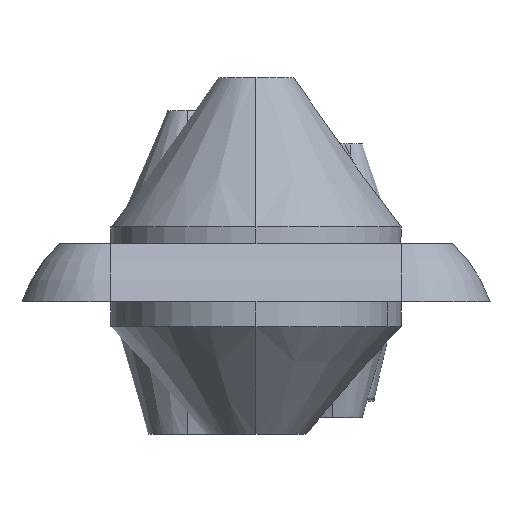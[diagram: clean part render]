
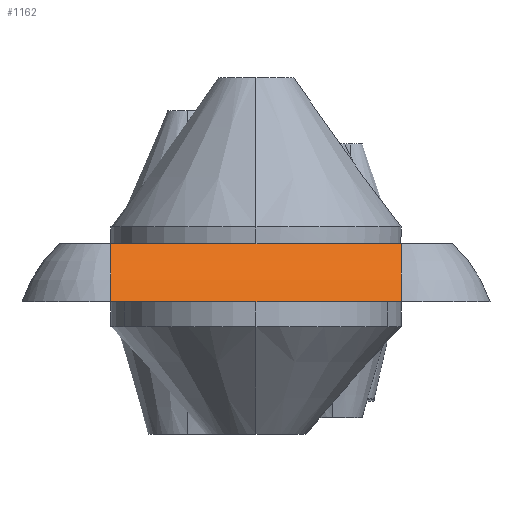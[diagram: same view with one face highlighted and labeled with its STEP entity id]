
A CAD part, left-side view. The second image highlights one B-rep face of the part: STEP entity #1162.
In plain terms, the highlighted cylindrical face has radius 16.279 mm (diameter 32.558 mm), a partial arc.
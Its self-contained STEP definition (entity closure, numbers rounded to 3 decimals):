
#245 = EDGE_LOOP ( 'NONE', ( #3084, #3083, #3082, #3081 ) ) ;
#884 = DIRECTION ( 'NONE',  ( 0., -1., 0. ) ) ;
#947 = DIRECTION ( 'NONE',  ( 0., 0., 1. ) ) ;
#952 = CARTESIAN_POINT ( 'NONE',  ( -57.73, 17.5, -12.054 ) ) ;
#962 = DIRECTION ( 'NONE',  ( 0., -1., 0. ) ) ;
#1162 = ADVANCED_FACE ( 'NONE', ( #4260 ), #4258, .T. ) ;
#1210 = CARTESIAN_POINT ( 'NONE',  ( -68.672, 17.5, 0. ) ) ;
#1212 = DIRECTION ( 'NONE',  ( 0., 0., 1. ) ) ;
#1213 = DIRECTION ( 'NONE',  ( 0., -1., 0. ) ) ;
#1214 = CARTESIAN_POINT ( 'NONE',  ( -57.73, -17.5, -12.054 ) ) ;
#1313 = CARTESIAN_POINT ( 'NONE',  ( -73.205, 17.5, -7. ) ) ;
#1314 = DIRECTION ( 'NONE',  ( 0., -1., 0. ) ) ;
#1760 = AXIS2_PLACEMENT_3D ( 'NONE', #952, #884, #947 ) ;
#1762 = AXIS2_PLACEMENT_3D ( 'NONE', #1214, #1213, #1212 ) ;
#2780 = VERTEX_POINT ( 'NONE', #6235 ) ;
#2787 = VERTEX_POINT ( 'NONE', #6212 ) ;
#2793 = VERTEX_POINT ( 'NONE', #6203 ) ;
#2800 = VERTEX_POINT ( 'NONE', #6198 ) ;
#3081 = ORIENTED_EDGE ( 'NONE', *, *, #6490, .F. ) ;
#3082 = ORIENTED_EDGE ( 'NONE', *, *, #6487, .F. ) ;
#3083 = ORIENTED_EDGE ( 'NONE', *, *, #6457, .T. ) ;
#3084 = ORIENTED_EDGE ( 'NONE', *, *, #6489, .T. ) ;
#4258 = CYLINDRICAL_SURFACE ( 'NONE', #5533, 16.279 ) ;
#4260 = FACE_OUTER_BOUND ( 'NONE', #245, .T. ) ;
#4780 = LINE ( 'NONE', #1313, #4784 ) ;
#4784 = VECTOR ( 'NONE', #1314, 1000. ) ;
#4814 = CIRCLE ( 'NONE', #1762, 16.279 ) ;
#4817 = CIRCLE ( 'NONE', #1760, 16.279 ) ;
#4818 = LINE ( 'NONE', #1210, #4820 ) ;
#4820 = VECTOR ( 'NONE', #962, 1000. ) ;
#4913 = CARTESIAN_POINT ( 'NONE',  ( -57.73, 17.5, -12.054 ) ) ;
#4915 = DIRECTION ( 'NONE',  ( 0., -1., 0. ) ) ;
#4920 = DIRECTION ( 'NONE',  ( 0., 0., -1. ) ) ;
#5533 = AXIS2_PLACEMENT_3D ( 'NONE', #4913, #4915, #4920 ) ;
#6198 = CARTESIAN_POINT ( 'NONE',  ( -73.205, 17.5, -7. ) ) ;
#6203 = CARTESIAN_POINT ( 'NONE',  ( -73.205, -17.5, -7. ) ) ;
#6212 = CARTESIAN_POINT ( 'NONE',  ( -68.672, 17.5, 0. ) ) ;
#6235 = CARTESIAN_POINT ( 'NONE',  ( -68.672, -17.5, 0. ) ) ;
#6457 = EDGE_CURVE ( 'NONE', #2800, #2793, #4780, .T. ) ;
#6487 = EDGE_CURVE ( 'NONE', #2780, #2793, #4814, .T. ) ;
#6489 = EDGE_CURVE ( 'NONE', #2787, #2800, #4817, .T. ) ;
#6490 = EDGE_CURVE ( 'NONE', #2787, #2780, #4818, .T. ) ;
